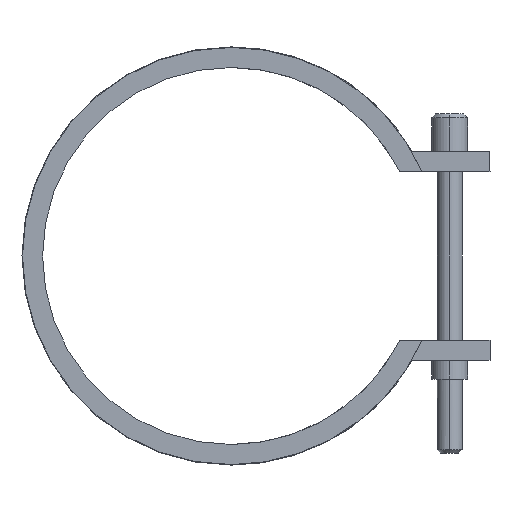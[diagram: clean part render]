
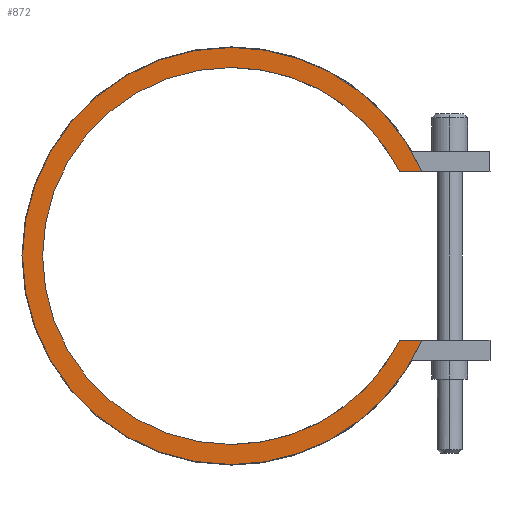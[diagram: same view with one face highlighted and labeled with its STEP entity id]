
A CAD part, left-side view. The second image highlights one B-rep face of the part: STEP entity #872.
In plain terms, the highlighted planar face has unit normal (-1, 0, 0).
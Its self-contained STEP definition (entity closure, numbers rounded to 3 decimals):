
#410=CARTESIAN_POINT('Vertex',(-30.,-33.551,-16.75)) ;
#413=CARTESIAN_POINT('Line Origine',(-30.,-35.76,-16.75)) ;
#417=CARTESIAN_POINT('Vertex',(-30.,-37.97,-16.75)) ;
#463=CARTESIAN_POINT('Vertex',(-30.,0.,-41.5)) ;
#466=CARTESIAN_POINT('Axis2P3D Location',(-30.,0.,0.)) ;
#487=CARTESIAN_POINT('Vertex',(-30.,0.,41.5)) ;
#490=CARTESIAN_POINT('Axis2P3D Location',(-30.,0.,0.)) ;
#502=CARTESIAN_POINT('Axis2P3D Location',(-30.,0.,0.)) ;
#506=CARTESIAN_POINT('Vertex',(-30.,-37.97,16.75)) ;
#526=CARTESIAN_POINT('Line Origine',(-30.,-35.76,16.75)) ;
#530=CARTESIAN_POINT('Vertex',(-30.,-33.551,16.75)) ;
#818=CARTESIAN_POINT('Axis2P3D Location',(-30.,0.,0.)) ;
#822=CARTESIAN_POINT('Vertex',(-30.,0.,-37.5)) ;
#845=CARTESIAN_POINT('Axis2P3D Location',(-30.,0.,0.)) ;
#850=CARTESIAN_POINT('Axis2P3D Location',(-30.,0.,0.)) ;
#854=CARTESIAN_POINT('Vertex',(-30.,0.,37.5)) ;
#857=CARTESIAN_POINT('Axis2P3D Location',(-30.,0.,0.)) ;
#414=DIRECTION('Vector Direction',(0.,1.,0.)) ;
#467=DIRECTION('Axis2P3D Direction',(1.,0.,-0.)) ;
#491=DIRECTION('Axis2P3D Direction',(1.,0.,-0.)) ;
#503=DIRECTION('Axis2P3D Direction',(1.,0.,-0.)) ;
#527=DIRECTION('Vector Direction',(0.,-1.,0.)) ;
#819=DIRECTION('Axis2P3D Direction',(1.,0.,-0.)) ;
#846=DIRECTION('Axis2P3D Direction',(1.,0.,0.)) ;
#847=DIRECTION('Axis2P3D XDirection',(0.,0.,-1.)) ;
#851=DIRECTION('Axis2P3D Direction',(1.,0.,0.)) ;
#858=DIRECTION('Axis2P3D Direction',(1.,0.,0.)) ;
#468=AXIS2_PLACEMENT_3D('Circle Axis2P3D',#466,#467,$) ;
#492=AXIS2_PLACEMENT_3D('Circle Axis2P3D',#490,#491,$) ;
#504=AXIS2_PLACEMENT_3D('Circle Axis2P3D',#502,#503,$) ;
#820=AXIS2_PLACEMENT_3D('Circle Axis2P3D',#818,#819,$) ;
#848=AXIS2_PLACEMENT_3D('Plane Axis2P3D',#845,#846,#847) ;
#852=AXIS2_PLACEMENT_3D('Circle Axis2P3D',#850,#851,$) ;
#859=AXIS2_PLACEMENT_3D('Circle Axis2P3D',#857,#858,$) ;
#863=ORIENTED_EDGE('',*,*,#419,.T.) ;
#864=ORIENTED_EDGE('',*,*,#824,.T.) ;
#865=ORIENTED_EDGE('',*,*,#856,.T.) ;
#866=ORIENTED_EDGE('',*,*,#861,.T.) ;
#867=ORIENTED_EDGE('',*,*,#532,.T.) ;
#868=ORIENTED_EDGE('',*,*,#508,.F.) ;
#869=ORIENTED_EDGE('',*,*,#494,.F.) ;
#870=ORIENTED_EDGE('',*,*,#470,.F.) ;
#415=VECTOR('Line Direction',#414,1.) ;
#528=VECTOR('Line Direction',#527,1.) ;
#872=ADVANCED_FACE('14075060',(#871),#849,.F.) ;
#469=CIRCLE('generated circle',#468,41.5) ;
#493=CIRCLE('generated circle',#492,41.5) ;
#505=CIRCLE('generated circle',#504,41.5) ;
#821=CIRCLE('generated circle',#820,37.5) ;
#853=CIRCLE('generated circle',#852,37.5) ;
#860=CIRCLE('generated circle',#859,37.5) ;
#419=EDGE_CURVE('',#418,#411,#416,.T.) ;
#470=EDGE_CURVE('',#418,#464,#469,.T.) ;
#494=EDGE_CURVE('',#464,#488,#493,.T.) ;
#508=EDGE_CURVE('',#488,#507,#505,.T.) ;
#532=EDGE_CURVE('',#531,#507,#529,.T.) ;
#824=EDGE_CURVE('',#411,#823,#821,.T.) ;
#856=EDGE_CURVE('',#823,#855,#853,.T.) ;
#861=EDGE_CURVE('',#855,#531,#860,.T.) ;
#862=EDGE_LOOP('',(#863,#864,#865,#866,#867,#868,#869,#870)) ;
#871=FACE_OUTER_BOUND('',#862,.T.) ;
#416=LINE('Line',#413,#415) ;
#529=LINE('Line',#526,#528) ;
#849=PLANE('Plane',#848) ;
#411=VERTEX_POINT('',#410) ;
#418=VERTEX_POINT('',#417) ;
#464=VERTEX_POINT('',#463) ;
#488=VERTEX_POINT('',#487) ;
#507=VERTEX_POINT('',#506) ;
#531=VERTEX_POINT('',#530) ;
#823=VERTEX_POINT('',#822) ;
#855=VERTEX_POINT('',#854) ;
